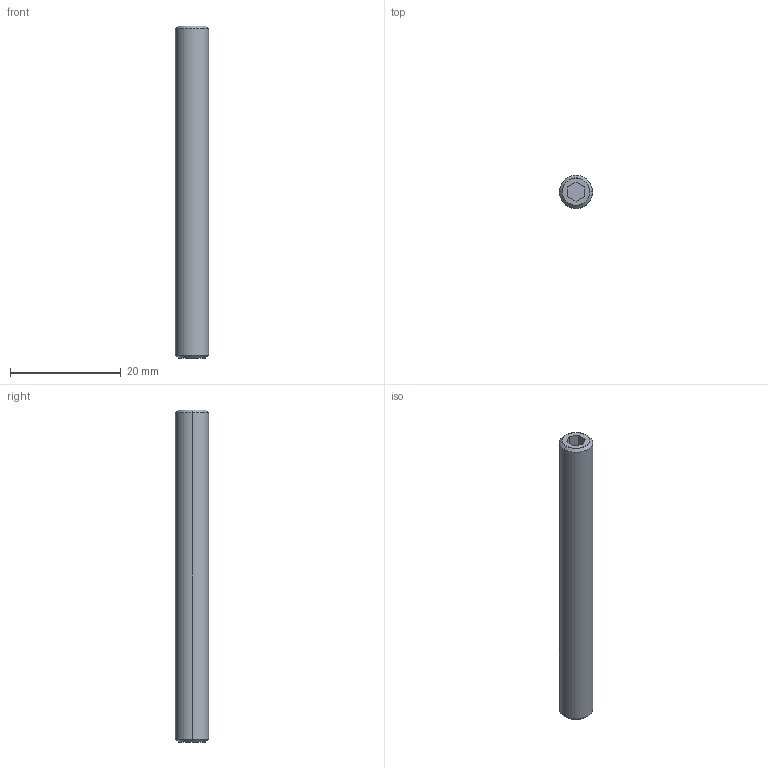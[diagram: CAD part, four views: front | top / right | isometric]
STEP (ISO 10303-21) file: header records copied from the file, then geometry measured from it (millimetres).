
FILE_DESCRIPTION (( 'STEP AP214' ), '1' );
FILE_NAME ('BruyRubio_VRA_6_x_60.STEP', '2019-12-30T10:33:32', ( '' ), ( '' ), 'SwSTEP 2.0', 'SolidWorks 2017', '' );
FILE_SCHEMA (( 'AUTOMOTIVE_DESIGN' ));
Length unit declared in the file: millimetre
Products named in the file (1): BruyRubio_VRA_6_x_60
Bounding box: 6 x 6 x 60 mm (x, y, z)
Volume: 1660.8 mm3; surface area: 3064.7 mm2
Topology: 2 solids, 2 shells, 21 faces, 44 edges, 28 vertices
Faces by surface type: plane 11, cylinder 6, cone 4
Entity records: 840 total; most frequent: DIRECTION 104, CARTESIAN_POINT 94, ORIENTED_EDGE 88, EDGE_CURVE 44, AXIS2_PLACEMENT_3D 38, VECTOR 28, LINE 28, VERTEX_POINT 28
